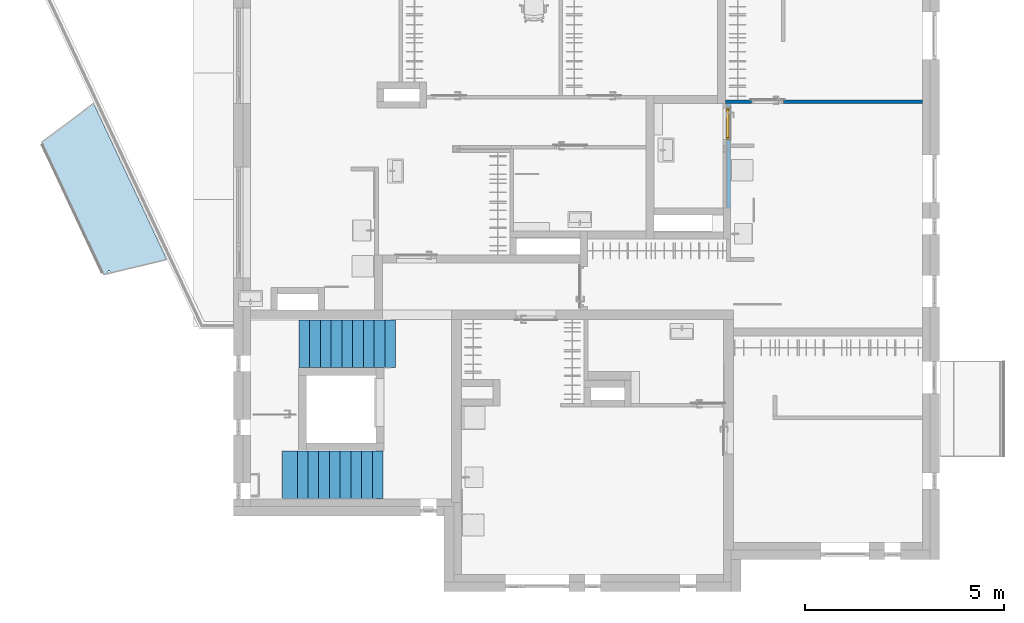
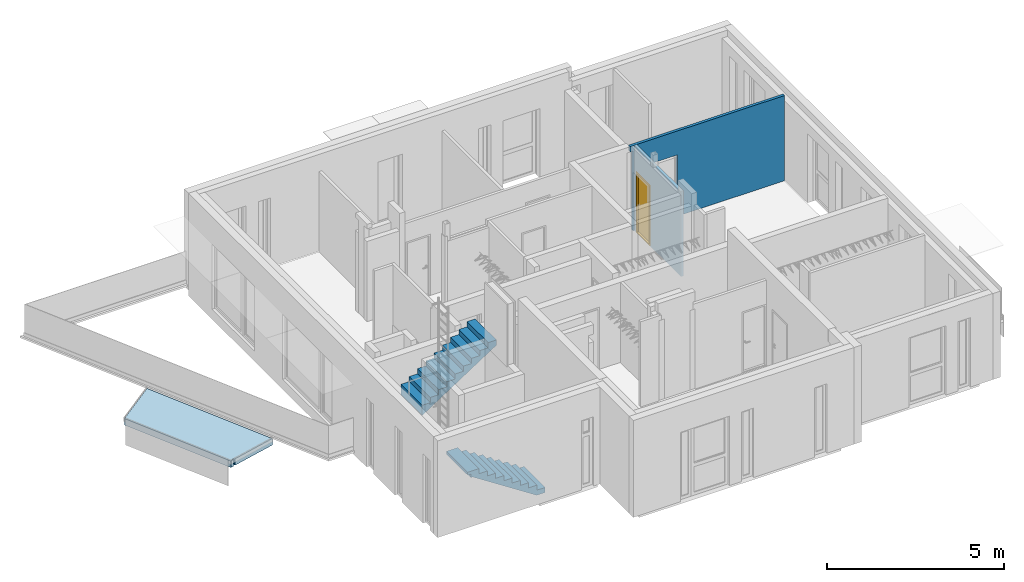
# One storey, part 10 of 42: 2 stair flights, 1 door, 1 roof, 1 wall, 1 opening, 1 element without a shape of its own, plus 1 element that does not belong to this part.
"""IFC2X3 building model written with IfcOpenShell, lengths in millimetres."""

from ifc_helpers import new_model, entity, si_unit, converted_unit, direction, frame, frame_2d, origin, place, context, subcontext, project, spatial, rectangle, extrude, faceted_brep, source, transform, mapped, material, layer, layer_set, layer_usage, type_object, type_shapes, element, fill, aggregate, save


model = new_model("IFC2X3")

# Units and contexts
model_context = context("Model", 3, precision=0.01, world=origin(), true_north=direction((6.123233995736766e-17, 1.0)))
plan_context = context("Plan", 3, precision=0.01, world=origin(), true_north=direction((6.123233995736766e-17, 1.0)))
body_context = subcontext(model_context, "Body", "Model", "MODEL_VIEW")
ifc_project = project(units=[si_unit("LENGTHUNIT", "METRE", prefix="MILLI"), converted_unit("PLANEANGLEUNIT", "DEGREE", entity("IfcPlaneAngleMeasure", 0.017453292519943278), si_unit("PLANEANGLEUNIT", "RADIAN"), dimensions=[0, 0, 0, 0, 0, 0, 0]), si_unit("AREAUNIT", "SQUARE_METRE")], contexts=[model_context, plan_context])

# Site, building, storey
site_placement = place(None, origin())
site = spatial("IfcSite", under=ifc_project, at=site_placement, Name="Default", CompositionType="ELEMENT")
building_placement = place(site_placement, origin())
building = spatial("IfcBuilding", under=site, at=building_placement, CompositionType="ELEMENT")
storey_placement = place(building_placement, frame((0.0, 0.0, 9465.000076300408)))
storey = spatial("IfcBuildingStorey", under=building, at=storey_placement, Name="4K", CompositionType="ELEMENT", Elevation=9465.000076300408)

# Wall
ifc_material_1 = material(Name="_K. Ehitusplaat. Kipsplaat. Erikõva")
ifc_layer_1 = layer(ifc_material_1, 13.000000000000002)
ifc_material_2 = material(Name="_K. Soojustus. Mineraalvill")
ifc_layer_2 = layer(ifc_material_2, 66.0)
ifc_layer_3 = layer(ifc_material_1, 13.000000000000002)
ifc_layer_set_1 = layer_set([ifc_layer_1, ifc_layer_2, ifc_layer_3], Name="Basic Wall:SS-401")
wall_type_1 = type_object("IfcWallType", Name="Basic Wall:SS-401", PredefinedType="STANDARD", material=ifc_layer_set_1)
wall_1_placement = place(storey_placement, frame((16900.0, 11892.0, -20.0), z_axis=(0.0, 0.0, 1.0), x_axis=(-1.0, 0.0, 0.0)))
element("IfcWall", 1, at=wall_1_placement, inside=storey, type_object=wall_type_1, Name="Basic Wall:SS-401", ObjectType="Basic Wall:SS-401", context=body_context, shape_type="Brep", body=[
    faceted_brep([(0.0, -46.0, 0.0), (4950.0, -46.0, 0.0), (4950.0, -46.0, 2759.9998779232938), (5050.0, -46.0, 2759.9998779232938), (5050.0, -46.0, 2946.0), (0.0, -46.0, 2946.0), (3500.0, -46.0, 20.0), (3500.0, -46.0, 2120.0), (4300.0, -46.0, 2120.0), (4300.0, -46.0, 20.0), (4950.0, 46.0, 0.0), (4939.0, 46.0, 0.0), (4911.0, 46.0, 0.0), (4832.0, 46.0, 0.0), (0.0, 46.0, 0.0), (0.0, 46.0, 2946.0), (4832.0, 46.0, 2946.0), (4911.0, 46.0, 2946.0), (4939.0, 46.0, 2946.0), (5018.0, 46.0, 2946.0), (5050.0, 46.0, 2946.0), (5050.0, 46.0, 2759.9998779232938), (4950.0, 46.0, 2759.9998779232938), (3500.0, 46.0, 2120.0), (3500.0, 46.0, 20.0), (4300.0, 46.0, 20.0), (4300.0, 46.0, 2120.0)], [[[0, 1, 2, 3, 4, 5], [6, 7, 8, 9]], [[10, 11, 12, 13, 14, 15, 16, 17, 18, 19, 20, 21, 22], [23, 24, 25, 26]], [[1, 0, 14, 13, 12, 11, 10]], [[5, 4, 20, 19, 18, 17, 16, 15]], [[0, 5, 15, 14]], [[20, 4, 3, 21]], [[1, 10, 22, 2]], [[23, 7, 6, 24]], [[24, 6, 9, 25]], [[25, 9, 8, 26]], [[7, 23, 26, 8]], [[21, 3, 2, 22]]]),
])

# Wall, opening, door
ifc_layer_4 = layer(ifc_material_1, 13.000000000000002)
ifc_layer_5 = layer(ifc_material_2, 66.0)
ifc_layer_set_2 = layer_set([ifc_layer_4, ifc_layer_5], Name="Basic Wall:SS-402")
ifc_layer_usage = layer_usage(ifc_layer_set_2, "AXIS2", "POSITIVE", -39.50000000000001)
wall_type_2 = type_object("IfcWallType", Name="Basic Wall:SS-402", PredefinedType="STANDARD", material=ifc_layer_set_2)
wall_2_placement = place(storey_placement, frame((12028.500000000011, 9210.0, -20.0), z_axis=(0.0, 0.0, 1.0), x_axis=(0.0, 1.0, 0.0)))
wall_2 = element("IfcWallStandardCase", 2, at=wall_2_placement, inside=storey, type_object=wall_type_2, material=ifc_layer_usage, Name="Basic Wall:SS-402", ObjectType="Basic Wall:SS-402", context=body_context, shape_type="SweptSolid", body=[
    extrude(rectangle(XDim=2635.999999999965, YDim=78.99999999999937, at=frame_2d((1317.9999999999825, 3.907985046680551e-14), x_axis=(-1.0, 0.0))), origin(), (0.0, 0.0, 1.0), 2945.9999999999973),
])
opening_placement = place(wall_2_placement, frame((-9210.0, 12028.500000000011, 20.0), z_axis=(0.0, 0.0, 1.0), x_axis=(0.0, -1.0, 0.0)))
opening = element("IfcOpeningElement", 3, at=opening_placement, cuts=wall_2, Name="Basic Wall:SS-402", ObjectType="Opening", context=body_context, shape_type="Brep", body=[
    faceted_brep([(10976.0, 10936.0, 2100.0), (10976.0, 11736.0, 2100.0), (10976.0, 11736.0, 0.0), (10976.0, 10936.0, 0.0), (13068.0, 10936.0, 0.0), (13068.0, 10936.0, 2100.0), (13068.0, 11736.0, 0.0), (13068.0, 11736.0, 2100.0)], [[[0, 1, 2, 3]], [[3, 4, 5, 0]], [[2, 6, 4, 3]], [[1, 7, 6, 2]], [[5, 7, 1, 0]], [[7, 5, 4, 6]]]),
])
ifc_material_3 = material(Name="_K. Puit. Peitsitud ja lakitud")
door_style = type_object("IfcDoorStyle", Name="HR_Generic_Hinged_Single:Default. Manteluks lävepakuga. 800 x 2100 mm. Left", ConstructionType="NOTDEFINED", OperationType="NOTDEFINED", ParameterTakesPrecedence=False, Sizeable=False, material=ifc_material_3)
shared_shape = source(origin(), body_context, "Body", "Brep", [
    faceted_brep([(765.0, 1092.0, 20.0), (35.0, 1092.0, 20.0), (35.0, 1062.0, 20.0), (50.0, 1062.0, 20.0), (50.0, 1000.0, 20.0), (750.0, 1000.0, 20.0), (750.0, 1062.0, 20.0), (765.0, 1062.0, 20.0), (35.0, 1092.0, 0.0), (765.0, 1092.0, 0.0), (765.0, 1062.0, 0.0), (750.0, 1062.0, 0.0), (750.0, 1000.0, 0.0), (50.0, 1000.0, 0.0), (50.0, 1062.0, 0.0), (35.0, 1062.0, 0.0)], [[[0, 1, 2, 3, 4, 5, 6, 7]], [[8, 9, 10, 11, 12, 13, 14, 15]], [[1, 0, 9, 8]], [[5, 4, 13, 12]], [[2, 1, 8, 15]], [[0, 7, 10, 9]], [[3, 14, 13, 4]], [[14, 3, 2, 15]], [[6, 11, 10, 7]], [[11, 6, 5, 12]]]),
    faceted_brep([(37.0, 1062.0, 2060.0), (37.0, 1062.0, 25.0), (763.0, 1062.0, 25.0), (763.0, 1062.0, 2060.0), (27.0, 1102.0, 25.0), (27.0, 1102.0, 2070.0), (773.0, 1102.0, 2070.0), (773.0, 1102.0, 25.0), (37.0, 1092.0, 2060.0), (37.0, 1092.0, 25.0), (27.0, 1092.0, 25.0), (773.0, 1092.0, 25.0), (763.0, 1092.0, 25.0), (763.0, 1092.0, 2060.0), (27.0, 1092.0, 2070.0), (773.0, 1092.0, 2070.0)], [[[0, 1, 2, 3]], [[4, 5, 6, 7]], [[1, 0, 8, 9]], [[2, 1, 9, 10, 4, 7, 11, 12]], [[3, 2, 12, 13]], [[0, 3, 13, 8]], [[14, 10, 9, 8, 13, 12, 11, 15]], [[6, 5, 14, 15]], [[7, 6, 15, 11]], [[5, 4, 10, 14]]]),
    faceted_brep([(800.0, 1000.0, 0.0), (750.0, 1000.0, 0.0), (750.0, 1062.0, 0.0), (765.0, 1062.0, 0.0), (765.0, 1092.0, 0.0), (800.0, 1092.0, 0.0), (800.0, 1000.0, 2100.0), (0.0, 1000.0, 2100.0), (0.0, 1000.0, 0.0), (50.0, 1000.0, 0.0), (50.0, 1000.0, 2050.0), (750.0, 1000.0, 2050.0), (750.0, 1062.0, 2050.0), (35.0, 1062.0, 2065.0), (765.0, 1062.0, 2065.0), (50.0, 1062.0, 2050.0), (50.0, 1062.0, 0.0), (35.0, 1062.0, 0.0), (765.0, 1092.0, 2065.0), (0.0, 1092.0, 0.0), (0.0, 1092.0, 2100.0), (800.0, 1092.0, 2100.0), (35.0, 1092.0, 2065.0), (35.0, 1092.0, 0.0)], [[[0, 1, 2, 3, 4, 5]], [[1, 0, 6, 7, 8, 9, 10, 11]], [[1, 11, 12, 2]], [[13, 14, 3, 2, 12, 15, 16, 17]], [[3, 14, 18, 4]], [[19, 20, 21, 5, 4, 18, 22, 23]], [[0, 5, 21, 6]], [[8, 19, 23, 17, 16, 9]], [[19, 8, 7, 20]], [[13, 17, 23, 22]], [[10, 9, 16, 15]], [[7, 6, 21, 20]], [[11, 10, 15, 12]], [[14, 13, 22, 18]]]),
])
type_shapes(door_style, [shared_shape])
door_placement = place(opening_placement, frame((10976.0, 11736.0, 0.0), z_axis=(0.0, 0.0, 1.0), x_axis=(0.0, -1.0, 0.0)))
door = element("IfcDoor", 4, at=door_placement, inside=storey, type_object=door_style, material=ifc_material_3, Name="HR_Generic_Hinged_Single:Default. Manteluks lävepakuga. 800 x 2100 mm. Left", ObjectType="HR_Generic_Hinged_Single:Default. Manteluks lävepakuga. 800 x 2100 mm. Left", OverallHeight=2130.000000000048, OverallWidth=860.0000000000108, context=body_context, shape_type="MappedRepresentation", body=[
    mapped(shared_shape, transform((0.0, 0.0, 0.0), scale=1.0)),
])
fill(opening, door)

# Stair, stair flights
type_product_1 = type_object("IfcTypeProduct", Name="Precast Stair:Default. Monteeritav raudbetoontrepp")
stair_placement = place(storey_placement, origin())
stair = element("IfcStair", 5, at=stair_placement, inside=storey, type_object=type_product_1, Name="Precast Stair:Stair", ObjectType="Precast Stair:Default. Monteeritav raudbetoontrepp", ShapeType="HALF_TURN_STAIR")
ifc_material_4 = material(Name="Temp. Betoon. Armeeritud. Kohtvalu")
stair_flight_type = type_object("IfcStairFlightType", Name="Monolithic Run:Default Run. Raudbetoon", PredefinedType="STRAIGHT")
stair_flight_1_placement = place(stair_placement, frame((802.4937255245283, 1905.0014695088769, 0.0)))
stair_flight_1 = element("IfcStairFlight", 6, at=stair_flight_1_placement, type_object=stair_flight_type, material=ifc_material_4, Name="Precast Stair:Stair:508949 Run 1", ObjectType="Monolithic Run:Default Run. Raudbetoon", NumberOfRiser=9, NumberOfTreads=9, RiserHeight=0.577792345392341, TreadLength=0.8858267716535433, context=body_context, shape_type="Brep", body=[
    faceted_brep([(2260.0, 0.0, 156.1111068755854), (2530.0, 0.0, 156.1111068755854), (2530.0, 1200.0, 156.1111068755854), (2260.0, 1200.0, 156.1111068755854), (2260.0, 0.0, -20.0), (2530.0, 0.0, -20.0), (2530.0, 1200.0, -20.0), (2260.0, 1200.0, -20.0), (1990.0, 0.0, 332.2222137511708), (2260.0, 0.0, 332.2222137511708), (2260.0, 1200.0, 332.2222137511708), (1990.0, 1200.0, 332.2222137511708), (1990.0, 0.0, 153.13405527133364), (2255.435813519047, 0.0, -20.0), (2255.43581351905, 1200.0, -20.0), (1990.0, 1200.0, 153.13405527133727), (1720.0, 0.0, 508.3333206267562), (1990.0, 0.0, 508.3333206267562), (1990.0, 1200.0, 508.3333206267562), (1720.0, 1200.0, 508.3333206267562), (1720.0, 0.0, 329.24516214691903), (1720.0, 1200.0, 329.24516214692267), (1450.0, 0.0, 684.4444275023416), (1720.0, 0.0, 684.4444275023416), (1720.0, 1200.0, 684.4444275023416), (1450.0, 1200.0, 684.4444275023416), (1450.0, 0.0, 505.3562690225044), (1450.0, 1200.0, 505.35626902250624), (1180.0, 0.0, 860.555534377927), (1450.0, 0.0, 860.555534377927), (1450.0, 1200.0, 860.555534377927), (1180.0, 1200.0, 860.555534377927), (1180.0, 0.0, 681.4673758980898), (1180.0, 1200.0, 681.4673758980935), (910.0, 0.0, 1036.6666412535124), (1180.0, 0.0, 1036.6666412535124), (1180.0, 1200.0, 1036.6666412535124), (910.0, 1200.0, 1036.6666412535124), (910.0, 0.0, 857.5784827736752), (910.0, 1200.0, 857.5784827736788), (640.0, 0.0, 1212.7777481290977), (910.0, 0.0, 1212.7777481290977), (910.0, 1200.0, 1212.7777481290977), (640.0, 1200.0, 1212.7777481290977), (640.0, 0.0, 1033.6895896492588), (640.0, 1200.0, 1033.6895896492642), (370.0, 0.0, 1388.888855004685), (640.0, 0.0, 1388.888855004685), (640.0, 1200.0, 1388.888855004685), (370.0, 1200.0, 1388.888855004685), (370.0, 0.0, 1209.800696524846), (370.0, 1200.0, 1209.8006965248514), (162.7228878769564, 0.0, 1344.9999618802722), (162.7228878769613, 1200.0, 1344.9999618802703), (100.0, 0.0, 1344.9999618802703), (100.0, 1200.0, 1344.9999618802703), (0.0, 1200.0, 1464.9999618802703), (100.0, 1200.0, 1464.9999618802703), (100.0, 0.0, 1464.9999618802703), (0.0, 0.0, 1464.9999618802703), (0.0, 0.0, 1564.9999618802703), (0.0, 1200.0, 1564.9999618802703), (370.0, 0.0, 1564.9999618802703), (370.0, 1200.0, 1564.9999618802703)], [[[0, 1, 2, 3]], [[1, 0, 4, 5]], [[2, 1, 5, 6]], [[3, 2, 6, 7]], [[8, 9, 10, 11]], [[4, 0, 9, 8, 12, 13]], [[0, 3, 10, 9]], [[3, 7, 14, 15, 11, 10]], [[16, 17, 18, 19]], [[17, 16, 20, 12, 8]], [[8, 11, 18, 17]], [[19, 18, 11, 15, 21]], [[22, 23, 24, 25]], [[23, 22, 26, 20, 16]], [[16, 19, 24, 23]], [[25, 24, 19, 21, 27]], [[28, 29, 30, 31]], [[29, 28, 32, 26, 22]], [[22, 25, 30, 29]], [[31, 30, 25, 27, 33]], [[34, 35, 36, 37]], [[35, 34, 38, 32, 28]], [[28, 31, 36, 35]], [[37, 36, 31, 33, 39]], [[40, 41, 42, 43]], [[41, 40, 44, 38, 34]], [[34, 37, 42, 41]], [[43, 42, 37, 39, 45]], [[46, 47, 48, 49]], [[47, 46, 50, 44, 40]], [[40, 43, 48, 47]], [[49, 48, 43, 45, 51]], [[5, 4, 13, 14, 7, 6]], [[52, 53, 51, 45, 39, 33, 27, 21, 15, 14, 13, 12, 20, 26, 32, 38, 44, 50]], [[53, 52, 54, 55]], [[56, 57, 58, 59]], [[56, 59, 60, 61]], [[62, 63, 61, 60]], [[46, 62, 60, 59, 58, 54, 52, 50]], [[46, 49, 63, 62]], [[61, 63, 49, 51, 53, 55, 57, 56]], [[55, 54, 58, 57]]]),
])
stair_flight_2_placement = place(stair_placement, frame((1213.7438214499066, 5197.496907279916, 0.0)))
stair_flight_2 = element("IfcStairFlight", 7, at=stair_flight_2_placement, type_object=stair_flight_type, material=ifc_material_4, Name="Precast Stair:Stair:508949 Run 2", ObjectType="Monolithic Run:Default Run. Raudbetoon", NumberOfRiser=10, NumberOfTreads=9, RiserHeight=0.577792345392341, TreadLength=0.8858267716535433, context=body_context, shape_type="Brep", body=[
    faceted_brep([(270.0, 1200.0, 1741.1110687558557), (0.0, 1200.0, 1741.1110687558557), (0.0, 0.0, 1741.1110687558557), (270.0, 0.0, 1741.1110687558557), (270.0, 1200.0, 1562.0229102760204), (0.0, 1200.0, 1385.9118034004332), (0.0, 0.0, 1385.9118034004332), (270.0, 0.0, 1562.0229102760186), (540.0, 1200.0, 1917.2221756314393), (270.0, 1200.0, 1917.2221756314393), (270.0, 0.0, 1917.2221756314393), (540.0, 0.0, 1917.2221756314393), (540.0, 1200.0, 1738.1340171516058), (540.0, 0.0, 1738.134017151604), (810.0, 1200.0, 2093.3332825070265), (540.0, 1200.0, 2093.3332825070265), (540.0, 0.0, 2093.3332825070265), (810.0, 0.0, 2093.3332825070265), (810.0, 1200.0, 1914.2451240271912), (810.0, 0.0, 1914.2451240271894), (1080.0, 1200.0, 2269.444389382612), (810.0, 1200.0, 2269.444389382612), (810.0, 0.0, 2269.444389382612), (1080.0, 0.0, 2269.444389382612), (1080.0, 1200.0, 2090.3562309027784), (1080.0, 0.0, 2090.3562309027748), (1350.0, 1200.0, 2445.5554962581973), (1080.0, 1200.0, 2445.5554962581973), (1080.0, 0.0, 2445.5554962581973), (1350.0, 0.0, 2445.5554962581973), (1350.0, 1200.0, 2266.467337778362), (1350.0, 0.0, 2266.4673377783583), (1620.0, 1200.0, 2621.6666031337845), (1350.0, 1200.0, 2621.6666031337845), (1350.0, 0.0, 2621.6666031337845), (1620.0, 0.0, 2621.6666031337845), (1620.0, 1200.0, 2442.578444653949), (1620.0, 0.0, 2442.5784446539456), (1890.0, 1200.0, 2797.77771000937), (1620.0, 1200.0, 2797.77771000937), (1620.0, 0.0, 2797.77771000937), (1890.0, 0.0, 2797.77771000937), (1890.0, 1200.0, 2618.6895515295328), (1890.0, 0.0, 2618.689551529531), (2160.0, 1200.0, 2973.8888168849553), (1890.0, 1200.0, 2973.8888168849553), (1890.0, 0.0, 2973.8888168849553), (2160.0, 0.0, 2973.8888168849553), (2160.0, 1200.0, 2794.80065840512), (2160.0, 0.0, 2794.8006584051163), (2430.0, 1200.0, 2970.9117652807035), (2430.0, 0.0, 2970.9117652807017), (2430.0, 1200.0, 3149.999923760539), (2160.0, 1200.0, 3149.999923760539), (2160.0, 0.0, 3149.999923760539), (2430.0, 0.0, 3149.999923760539)], [[[0, 1, 2, 3]], [[1, 0, 4, 5]], [[2, 1, 5, 6]], [[3, 2, 6, 7]], [[8, 9, 10, 11]], [[9, 8, 12, 4, 0]], [[10, 9, 0, 3]], [[11, 10, 3, 7, 13]], [[14, 15, 16, 17]], [[15, 14, 18, 12, 8]], [[16, 15, 8, 11]], [[17, 16, 11, 13, 19]], [[20, 21, 22, 23]], [[21, 20, 24, 18, 14]], [[22, 21, 14, 17]], [[23, 22, 17, 19, 25]], [[26, 27, 28, 29]], [[27, 26, 30, 24, 20]], [[28, 27, 20, 23]], [[29, 28, 23, 25, 31]], [[32, 33, 34, 35]], [[33, 32, 36, 30, 26]], [[34, 33, 26, 29]], [[35, 34, 29, 31, 37]], [[38, 39, 40, 41]], [[39, 38, 42, 36, 32]], [[40, 39, 32, 35]], [[41, 40, 35, 37, 43]], [[44, 45, 46, 47]], [[45, 44, 48, 42, 38]], [[46, 45, 38, 41]], [[47, 46, 41, 43, 49]], [[5, 4, 12, 18, 24, 30, 36, 42, 48, 50, 51, 49, 43, 37, 31, 25, 19, 13, 7, 6]], [[52, 53, 54, 55]], [[53, 52, 50, 48, 44]], [[54, 53, 44, 47]], [[55, 54, 47, 49, 51]], [[52, 55, 51, 50]]]),
])
aggregate(stair, [stair_flight_1, stair_flight_2])

# Roof
ifc_material_5 = material(Name="_K. Katusekate. Rullmaterjal. SBS")
ifc_layer_6 = layer(ifc_material_5, 10.0)
ifc_material_6 = material(Name="_K. Ehitusplaat. Vineer. Veekindel")
ifc_layer_7 = layer(ifc_material_6, 15.0)
ifc_material_7 = material(Name="_K. Õhk. Roov. Fassaadikatte alusroov. Horisontaalne. 25 mm")
ifc_layer_8 = layer(ifc_material_7, 100.0)
ifc_layer_9 = layer(ifc_material_7, 100.0)
ifc_layer_set_3 = layer_set([ifc_layer_6, ifc_layer_7, ifc_layer_8, ifc_layer_9], Name="Basic Roof:KL-06")
type_product_2 = type_object("IfcTypeProduct", Name="Basic Roof:KL-06")
roof_placement = place(storey_placement, frame((-5247.469988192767, 7545.054007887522, -120.0)))
element("IfcRoof", 8, at=roof_placement, inside=storey, type_object=type_product_2, material=ifc_layer_set_3, Name="Basic Roof:KL-06", ObjectType="Basic Roof:KL-06", ShapeType="NOTDEFINED", context=body_context, shape_type="Brep", body=[
    faceted_brep([(3135.684272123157, 377.22529468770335, 225.0), (1710.309758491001, 36.02881870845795, 225.0), (1710.309758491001, 36.02881870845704, 218.5449497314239), (1710.309758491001, 36.02881870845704, 212.0895107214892), (1710.309758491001, 36.02881870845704, 199.17863270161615), (1710.3097584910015, 36.02881870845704, 173.35687666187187), (1710.3097584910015, 36.02881870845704, 121.71414206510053), (1710.3097584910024, 36.02881870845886, 0.0), (3135.684272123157, 377.22529468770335, 0.0), (1559.7965980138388, 0.0, 225.0), (1559.7965980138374, 0.0, 0.0), (1666.5987698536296, 25.565578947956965, 0.0), (1666.5987698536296, 25.565578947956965, 121.7137649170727), (1666.5987698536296, 25.565578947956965, 173.35688245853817), (1666.5987698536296, 25.565578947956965, 199.1784412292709), (1666.59876985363, 25.565578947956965, 225.0), (1663.682098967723, 27.19712759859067, 194.99992369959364), (1662.6930066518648, 27.837566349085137, 194.99992369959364), (1663.5323024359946, 26.046646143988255, 194.99992369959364), (1664.6921890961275, 26.590346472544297, 194.99992369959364), (1717.0228512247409, 53.29867312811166, 194.99992369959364), (1716.8825992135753, 52.131999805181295, 194.99992369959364), (1716.7032624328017, 50.97069209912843, 194.99992369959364), (1717.8597763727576, 51.51281145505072, 194.99992369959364), (1638.069948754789, 80.37915268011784, 194.99992369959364), (1647.3927854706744, 60.48574089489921, 194.99992369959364), (1649.4548565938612, 69.23090591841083, 194.99992369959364), (1653.6754160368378, 77.16292499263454, 194.99992369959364), (1659.7763201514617, 83.75906155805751, 194.99992369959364), (1667.3555066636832, 88.5846164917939, 194.99992369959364), (1675.9134914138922, 91.32157568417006, 194.99992369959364), (1684.8862854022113, 91.7895678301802, 194.99992369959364), (1693.6825628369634, 89.95775127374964, 194.99992369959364), (1701.7226307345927, 85.94684653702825, 194.99992369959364), (1692.399793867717, 105.84025885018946, 194.99992369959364), (1665.022090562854, 26.402031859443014, 195.0302831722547), (1664.8568843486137, 26.49574159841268, 195.0151324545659), (1714.7162959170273, 43.92305545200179, 195.54134981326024), (1711.3064607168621, 37.443067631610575, 195.97348378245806), (1710.8168498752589, 36.72978340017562, 210.6904781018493), (1710.496429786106, 36.286858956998, 219.73235580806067), (1665.8050975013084, 25.97375347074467, 210.2318019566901), (1715.880748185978, 47.34580455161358, 100.63556935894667), (1714.0832839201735, 42.436941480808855, 0.0), (1713.684263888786, 41.587521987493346, 125.26639696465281), (1717.161545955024, 55.0930613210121, 195.0186369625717), (1717.2078183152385, 56.89220669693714, 91.74937146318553), (1717.2078183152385, 56.89220669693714, 0.0), (1716.4177678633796, 49.497657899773, 0.0), (1717.2078183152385, 56.89220669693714, 195.03562730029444), (1298.0510307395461, 4297.509545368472, 0.0), (1298.0510307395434, 4297.509545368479, 225.0), (1647.2078183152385, 56.89220669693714, 0.0), (1648.0644962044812, 49.19587281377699, 0.0), (1650.5925929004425, 41.876297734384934, 0.0), (1654.6683504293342, 35.29179678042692, 0.0), (1660.092248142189, 29.764701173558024, 0.0), (0.0, 3327.5869636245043, 0.0), (1716.0152222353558, 65.95087327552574, 0.0), (1712.518707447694, 74.39220669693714, 0.0), (1706.9565556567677, 81.64094403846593, 0.0), (1699.7078183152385, 87.20309582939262, 0.0), (1691.2664848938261, 90.69961061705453, 0.0), (1682.2078183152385, 91.89220669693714, 0.0), (1673.1491517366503, 90.69961061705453, 0.0), (1664.707818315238, 87.20309582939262, 0.0), (1657.4590809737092, 81.64094403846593, 0.0), (1651.896929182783, 74.39220669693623, 0.0), (1648.400414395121, 65.95087327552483, 0.0), (0.0, 3327.5869636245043, 225.0), (1656.2322227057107, 33.434405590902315, 195.9929774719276), (1651.3207788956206, 40.43040862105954, 196.41547559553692), (1648.251623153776, 48.40829190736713, 196.24221775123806), (1647.2078183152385, 56.89220669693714, 195.48353807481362), (1647.2540906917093, 58.69135238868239, 195.25339961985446), (1708.1834143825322, 80.35000729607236, 195.0732374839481), (1713.0948579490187, 73.35400437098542, 195.10442908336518), (1716.1640135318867, 65.37612126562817, 195.09163804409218)], [[[0, 1, 2, 3, 4, 5, 6, 7, 8]], [[9, 10, 11, 12, 13, 14, 15]], [[16, 17, 18, 19]], [[20, 21, 22, 23]], [[24, 25, 26, 27, 28, 29, 30, 31, 32, 33, 34]], [[35, 36, 19, 18]], [[0, 23, 22, 37, 38]], [[0, 38, 39, 40, 1]], [[18, 9, 15, 41, 35]], [[42, 43, 44]], [[45, 46, 20]], [[47, 48, 46]], [[44, 5, 38]], [[44, 43, 7]], [[38, 4, 39]], [[5, 44, 7, 6]], [[38, 5, 4]], [[4, 3, 2, 1, 40, 39]], [[37, 44, 38]], [[42, 37, 22]], [[48, 42, 46]], [[21, 42, 22]], [[43, 42, 48]], [[21, 46, 42]], [[45, 49, 46]], [[46, 21, 20]], [[44, 37, 42]], [[0, 8, 50, 51]], [[52, 53, 54, 55, 56, 11, 10, 57, 50, 8, 7, 43, 48, 47, 58, 59, 60, 61, 62, 63, 64, 65, 66, 67, 68]], [[51, 50, 57, 69]], [[69, 57, 10, 9]], [[51, 69, 34]], [[69, 9, 24]], [[9, 18, 17, 70, 71, 72, 73, 74, 25, 24]], [[69, 24, 34]], [[51, 34, 0]], [[0, 34, 33, 75, 76, 77, 49, 45, 20, 23]], [[73, 53, 52]], [[71, 55, 54]], [[72, 54, 53]], [[72, 53, 73]], [[54, 72, 71]], [[55, 71, 70]], [[70, 56, 55]], [[70, 17, 56]], [[17, 12, 56]], [[12, 17, 16]], [[11, 56, 12]], [[35, 14, 13]], [[16, 19, 12]], [[36, 13, 19]], [[15, 14, 41]], [[36, 35, 13]], [[13, 12, 19]], [[41, 14, 35]], [[58, 47, 77]], [[58, 76, 59]], [[60, 59, 75]], [[31, 63, 62]], [[32, 62, 61]], [[61, 60, 33]], [[77, 76, 58]], [[77, 47, 46, 49]], [[32, 61, 33]], [[32, 31, 62]], [[76, 75, 59]], [[75, 33, 60]], [[31, 30, 63]], [[64, 30, 29]], [[63, 30, 64]], [[64, 29, 65]], [[66, 65, 28]], [[68, 67, 26]], [[67, 66, 27]], [[52, 68, 25]], [[29, 28, 65]], [[28, 27, 66]], [[26, 67, 27]], [[52, 25, 74]], [[74, 73, 52]], [[26, 25, 68]]]),
])

save(model, "model.ifc")
